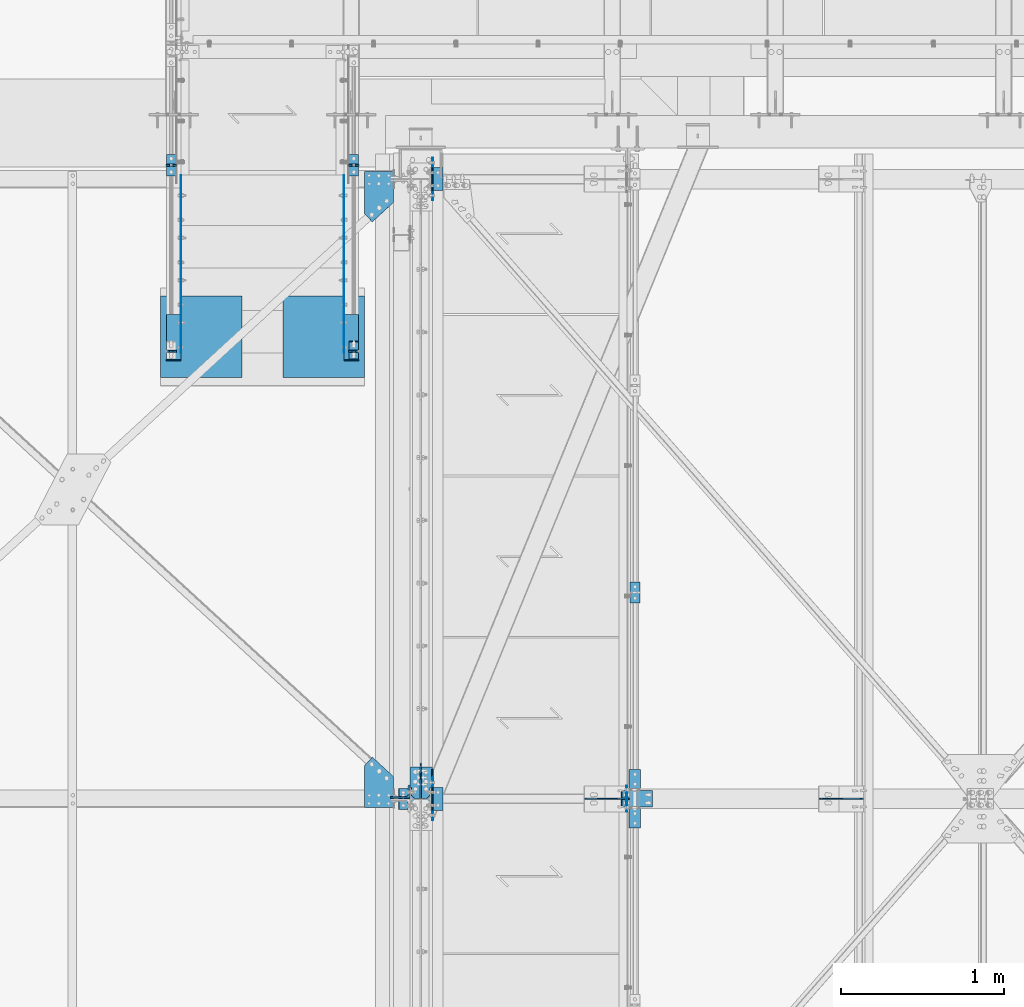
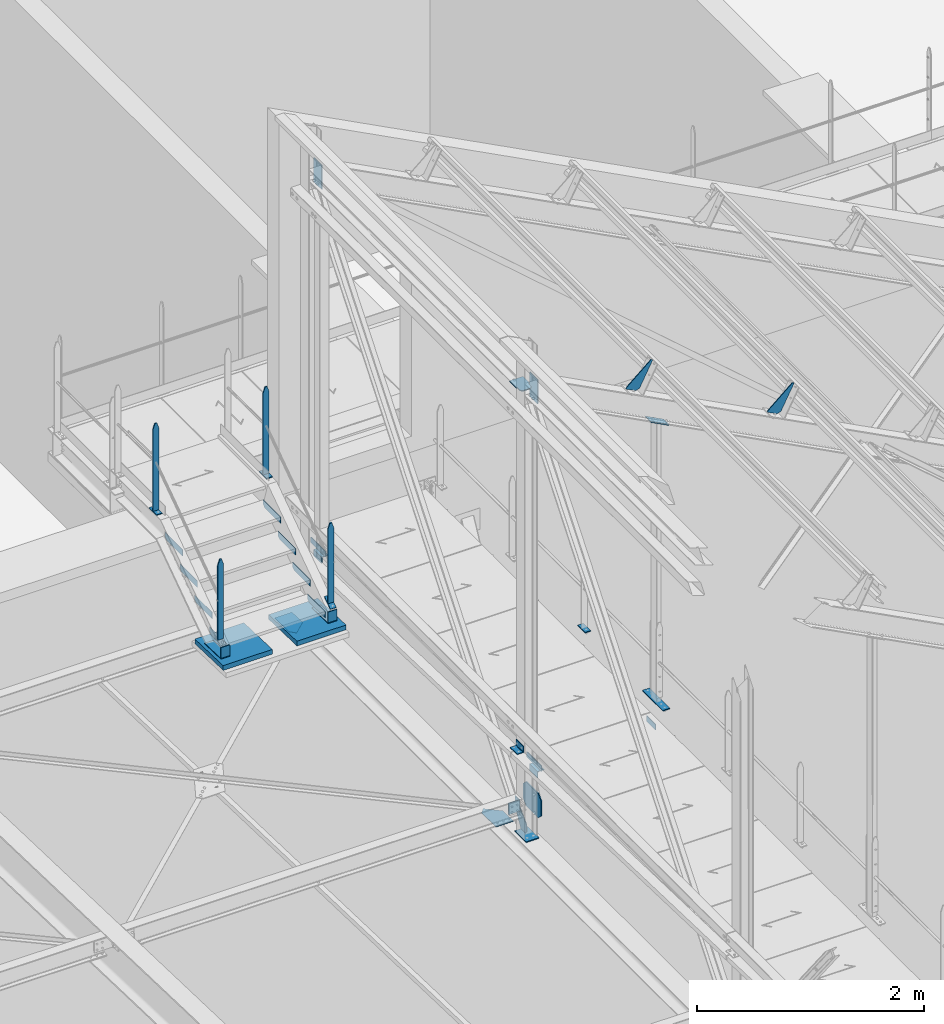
# One storey, part 82 of 362: 38 beams, 3 members, 26 elements without a shape of their own.
"""IFC2X3 building model written with IfcOpenShell, lengths in millimetres."""

from ifc_helpers import new_model, si_unit, frame, frame_2d, origin_with_axes, origin_2d_with_axis, place, context, subcontext, project, spatial, polyline, circle_curve, parameter, trimmed, segment, composite_curve, rectangle, l_section, outline, extrude, clip, halfspace, material, type_object, element, aggregate, save


model = new_model("IFC2X3")

# Units and contexts
model_context = context("Model", 3, precision=1e-05, world=origin_with_axes())
body_context = subcontext(model_context, "Body", "Model", "MODEL_VIEW")
ifc_project = project(units=[si_unit("LENGTHUNIT", "METRE", prefix="MILLI"), si_unit("AREAUNIT", "SQUARE_METRE"), si_unit("VOLUMEUNIT", "CUBIC_METRE"), si_unit("MASSUNIT", "GRAM", prefix="KILO"), si_unit("TIMEUNIT", "SECOND"), si_unit("PLANEANGLEUNIT", "RADIAN"), si_unit("SOLIDANGLEUNIT", "STERADIAN"), si_unit("THERMODYNAMICTEMPERATUREUNIT", "DEGREE_CELSIUS"), si_unit("LUMINOUSINTENSITYUNIT", "LUMEN")], contexts=[model_context])

# Site, building, storey
site_placement = place(None, origin_with_axes())
site = spatial("IfcSite", under=ifc_project, at=site_placement, Name="Undefined", CompositionType="ELEMENT")
building_placement = place(site_placement, origin_with_axes())
building = spatial("IfcBuilding", under=site, at=building_placement, Name="Undefined", CompositionType="ELEMENT")
storey_placement = place(building_placement, origin_with_axes())
storey = spatial("IfcBuildingStorey", under=building, at=storey_placement, Name="Undefined", CompositionType="ELEMENT", Elevation=0.0)

# Assembly, beams
assembly_1_placement = place(storey_placement, origin_with_axes())
assembly_1 = element("IfcElementAssembly", 1, at=assembly_1_placement, inside=storey, Name="MAIN COURANTE", AssemblyPlace="NOTDEFINED", PredefinedType="NOTDEFINED")
ifc_material_1 = material(Name="Undefined/S235-E24")
beam_type_1 = type_object("IfcBeamType", Name="PL10*60", PredefinedType="NOTDEFINED")
beam_1_placement = place(assembly_1_placement, frame((12269.9936634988, 15350.0038033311, 8915.0), z_axis=(1.0, 0.0, 0.0), x_axis=(0.0, -1.0, 0.0)))
beam_1 = element("IfcBeam", 2, at=beam_1_placement, type_object=beam_type_1, material=ifc_material_1, Name="PLATINE", ObjectType="PL10*60", context=body_context, shape_type="SweptSolid", body=[
    extrude(rectangle(XDim=10.0, YDim=60.0, at=origin_2d_with_axis()), frame((130.0, 0.0, 0.0), z_axis=(-1.0, 0.0, 0.0), x_axis=(0.0, -1.0, 0.0)), (0.0, 0.0, 1.0), 130.0),
])
beam_2_placement = place(assembly_1_placement, frame((12269.9937887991, 15285.0038033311, 9857.59999847), z_axis=(0.999999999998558, -1.69800000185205e-06, 0.0), x_axis=(0.0, 0.0, -1.0)))
beam_2 = element("IfcBeam", 3, at=beam_2_placement, type_object=beam_type_1, material=ifc_material_1, Name="MONTANT", ObjectType="PL10*60", context=body_context, shape_type="Clipping", body=[
    clip(clip(extrude(rectangle(XDim=10.0, YDim=60.0, at=origin_2d_with_axis()), frame((937.599998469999, 0.0, 0.0), z_axis=(-1.0, 0.0, 0.0), x_axis=(0.0, -1.0, 0.0)), (0.0, 0.0, 1.0), 937.6), halfspace(frame((-119.999937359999, 4.99999999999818, -30.0), z_axis=(-0.316227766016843, 1.98085072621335e-06, 0.948683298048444), x_axis=(0.948683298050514, 0.0, 0.316227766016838)), False)), halfspace(frame((60.0, 5.0, -30.0), z_axis=(-0.316227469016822, -1.98084886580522e-06, -0.948683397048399), x_axis=(-0.948683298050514, 0.0, 0.316227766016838)), False)),
])

assembly_2_placement = place(storey_placement, origin_with_axes())
assembly_2 = element("IfcElementAssembly", 4, at=assembly_2_placement, inside=storey, Name="MAIN COURANTE", AssemblyPlace="NOTDEFINED", PredefinedType="NOTDEFINED")
beam_3_placement = place(assembly_2_placement, frame((11149.9863365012, 15350.0038033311, 8915.0), z_axis=(-1.0, 0.0, 0.0), x_axis=(0.0, -1.0, 0.0)))
beam_3 = element("IfcBeam", 5, at=beam_3_placement, type_object=beam_type_1, material=ifc_material_1, Name="PLATINE", ObjectType="PL10*60", context=body_context, shape_type="SweptSolid", body=[
    extrude(rectangle(XDim=10.0, YDim=60.0, at=origin_2d_with_axis()), frame((130.0, 0.0, 0.0), z_axis=(-1.0, 0.0, 0.0), x_axis=(0.0, -1.0, 0.0)), (0.0, 0.0, 1.0), 130.0),
])
beam_4_placement = place(assembly_2_placement, frame((11149.9862112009, 15285.0038033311, 9857.59999847), z_axis=(-0.99999999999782, -2.08799999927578e-06, 0.0), x_axis=(0.0, 0.0, -1.0)))
beam_4 = element("IfcBeam", 6, at=beam_4_placement, type_object=beam_type_1, material=ifc_material_1, Name="MONTANT", ObjectType="PL10*60", context=body_context, shape_type="Clipping", body=[
    clip(clip(extrude(rectangle(XDim=10.0, YDim=60.0, at=origin_2d_with_axis()), frame((937.599998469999, 0.0, 0.0), z_axis=(-1.0, 0.0, 0.0), x_axis=(0.0, -1.0, 0.0)), (0.0, 0.0, 1.0), 937.6), halfspace(frame((-119.999937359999, -4.99999999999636, -30.0), z_axis=(-0.316227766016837, -1.98085072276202e-06, 0.948683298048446), x_axis=(-6.26399999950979e-06, 0.999999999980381, -3.63797880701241e-15)), False)), halfspace(frame((60.0, -5.0, -30.0), z_axis=(-0.316227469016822, 1.98084886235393e-06, -0.948683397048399), x_axis=(6.26399999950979e-06, 0.999999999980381, -3.63797880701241e-15)), False)),
])
beam_5_placement = place(assembly_2_placement, frame((11149.9862112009, 14144.9998536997, 9085.35366746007), z_axis=(-0.99999999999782, -2.08799999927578e-06, 0.0), x_axis=(0.0, 0.0, -1.0)))
beam_5 = element("IfcBeam", 7, at=beam_5_placement, type_object=beam_type_1, material=ifc_material_1, Name="MONTANT", ObjectType="PL10*60", context=body_context, shape_type="Clipping", body=[
    clip(clip(clip(clip(extrude(rectangle(XDim=10.0, YDim=60.0, at=origin_2d_with_axis()), frame((863.260305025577, 0.0, 0.0), z_axis=(-1.0, 0.0, 0.0), x_axis=(0.0, -1.0, 0.0)), (0.0, 0.0, 1.0), 870.25), halfspace(frame((-119.999937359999, -4.99999999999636, -30.0), z_axis=(-0.316227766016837, -1.98085072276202e-06, 0.948683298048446), x_axis=(-6.26399999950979e-06, 0.999999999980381, -3.63797880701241e-15)), False)), halfspace(frame((60.0, -5.0, -30.0), z_axis=(-0.316227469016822, 1.98084886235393e-06, -0.948683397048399), x_axis=(6.26399999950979e-06, 0.999999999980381, -3.63797880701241e-15)), False)), halfspace(frame((851.815615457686, -6.43113634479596, -0.000138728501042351), z_axis=(0.822192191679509, -0.569209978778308, -6.66011673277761e-07), x_axis=(0.569209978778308, 0.822192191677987, 1.71673729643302e-06)), False)), halfspace(frame((-7.87605918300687, -11.3765299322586, -0.000149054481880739), z_axis=(0.822192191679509, -0.569209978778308, -6.66011673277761e-07), x_axis=(0.569209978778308, 0.822192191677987, 1.71673729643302e-06)), True)),
])
aggregate(assembly_2, [beam_3, beam_4, beam_5])

# Beam
beam_6_placement = place(assembly_1_placement, frame((12269.9937887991, 14144.9998536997, 9085.35366746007), z_axis=(0.999999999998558, -1.69800000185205e-06, 0.0), x_axis=(0.0, 0.0, -1.0)))
beam_6 = element("IfcBeam", 8, at=beam_6_placement, type_object=beam_type_1, material=ifc_material_1, Name="MONTANT", ObjectType="PL10*60", context=body_context, shape_type="Clipping", body=[
    clip(clip(clip(clip(extrude(rectangle(XDim=10.0, YDim=60.0, at=origin_2d_with_axis()), frame((863.260305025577, 0.0, 0.0), z_axis=(-1.0, 0.0, 0.0), x_axis=(0.0, -1.0, 0.0)), (0.0, 0.0, 1.0), 870.25), halfspace(frame((-119.999937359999, 4.99999999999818, -30.0), z_axis=(-0.316227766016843, 1.98085072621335e-06, 0.948683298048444), x_axis=(0.948683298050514, 0.0, 0.316227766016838)), False)), halfspace(frame((60.0, 5.0, -30.0), z_axis=(-0.316227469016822, -1.98084886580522e-06, -0.948683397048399), x_axis=(-0.948683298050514, 0.0, 0.316227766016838)), False)), halfspace(frame((851.815615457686, 6.43113634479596, -0.000138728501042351), z_axis=(0.822192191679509, 0.569209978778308, -6.6601167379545e-07), x_axis=(0.0, -2.08799999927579e-06, -0.99999999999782)), False)), halfspace(frame((-7.87605918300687, 11.3765299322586, -0.000149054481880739), z_axis=(0.822192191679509, 0.569209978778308, -6.6601167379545e-07), x_axis=(0.0, -2.08799999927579e-06, -0.99999999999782)), True)),
])

# Assembly, beam
assembly_3_placement = place(storey_placement, origin_with_axes())
assembly_3 = element("IfcElementAssembly", 9, at=assembly_3_placement, inside=storey, Name="MAIN COURANTE", AssemblyPlace="NOTDEFINED", PredefinedType="NOTDEFINED")
beam_7_placement = place(assembly_3_placement, frame((13993.9998916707, 12730.0034471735, 8245.00000008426), z_axis=(-1.0, 0.0, 0.0), x_axis=(0.0, -1.0, 0.0)))
beam_7 = element("IfcBeam", 10, at=beam_7_placement, type_object=beam_type_1, material=ifc_material_1, Name="PLATINE", ObjectType="PL10*60", context=body_context, shape_type="SweptSolid", body=[
    extrude(rectangle(XDim=10.0, YDim=60.0, at=origin_2d_with_axis()), frame((130.0, 0.0, 0.0), z_axis=(-1.0, 0.0, 0.0), x_axis=(0.0, -1.0, 0.0)), (0.0, 0.0, 1.0), 130.0),
])
aggregate(assembly_3, [beam_7])

# Member
member_type_1 = type_object("IfcMemberType", Name="PL10*60", PredefinedType="NOTDEFINED")
member_1_placement = place(assembly_1_placement, frame((12269.9936634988, 14205.3993570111, 8264.81946439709), z_axis=(1.0, 0.0, 0.0), x_axis=(0.0, -0.822192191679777, -0.569209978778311)))
member_1 = element("IfcMember", 11, at=member_1_placement, type_object=member_type_1, material=ifc_material_1, Name="PLATINE", ObjectType="PL10*60", context=body_context, shape_type="SweptSolid", body=[
    extrude(rectangle(XDim=10.0, YDim=60.0, at=origin_2d_with_axis()), frame((130.0, 0.0, 0.0), z_axis=(-1.0, 0.0, 0.0), x_axis=(0.0, -1.0, 0.0)), (0.0, 0.0, 1.0), 130.0),
])

aggregate(assembly_1, [beam_1, beam_2, member_1, beam_6])

# Assembly, beams
assembly_4_placement = place(storey_placement, origin_with_axes())
assembly_4 = element("IfcElementAssembly", 12, at=assembly_4_placement, inside=storey, Name="MARCHE", AssemblyPlace="NOTDEFINED", PredefinedType="NOTDEFINED")
beam_type_2 = type_object("IfcBeamType", Name="PL3*70", PredefinedType="NOTDEFINED")
beam_8_placement = place(assembly_4_placement, frame((11211.4947340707, 15224.9997910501, 8700.0), z_axis=(-1.0, 0.0, 0.0), x_axis=(0.0, 0.0, -1.0)))
beam_8 = element("IfcBeam", 13, at=beam_8_placement, type_object=beam_type_2, material=ifc_material_1, Name="PLAT MARCHE", ObjectType="PL3*70", context=body_context, shape_type="SweptSolid", body=[
    extrude(outline(polyline([(0.0, 0.0), (50.0, 0.0), (70.0, 30.0), (70.0, 310.0), (0.0, 310.0), (0.0, 0.0)])), frame((0.0, 0.0, -1.5), z_axis=(0.0, 0.0, 1.0), x_axis=(1.0, 0.0, 0.0)), (0.0, 0.0, 1.0), 3.0),
])
beam_9_placement = place(assembly_4_placement, frame((12208.4947340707, 15224.9997910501, 8700.0), z_axis=(-1.0, 0.0, 0.0), x_axis=(0.0, 0.0, -1.0)))
beam_9 = element("IfcBeam", 14, at=beam_9_placement, type_object=beam_type_2, material=ifc_material_1, Name="PLAT MARCHE", ObjectType="PL3*70", context=body_context, shape_type="SweptSolid", body=[
    extrude(outline(polyline([(0.0, 0.0), (50.0, 0.0), (70.0, 30.0), (70.0, 310.0), (0.0, 310.0), (0.0, 0.0)])), frame((0.0, 0.0, -1.5), z_axis=(0.0, 0.0, 1.0), x_axis=(1.0, 0.0, 0.0)), (0.0, 0.0, 1.0), 3.0),
])
aggregate(assembly_4, [beam_8, beam_9])

assembly_5_placement = place(storey_placement, origin_with_axes())
assembly_5 = element("IfcElementAssembly", 15, at=assembly_5_placement, inside=storey, Name="MARCHE", AssemblyPlace="NOTDEFINED", PredefinedType="NOTDEFINED")
beam_10_placement = place(assembly_5_placement, frame((11211.4947340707, 14964.9997910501, 8520.00000004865), z_axis=(-1.0, 0.0, 0.0), x_axis=(0.0, 0.0, -1.0)))
beam_10 = element("IfcBeam", 16, at=beam_10_placement, type_object=beam_type_2, material=ifc_material_1, Name="PLAT MARCHE", ObjectType="PL3*70", context=body_context, shape_type="SweptSolid", body=[
    extrude(outline(polyline([(0.0, 0.0), (50.0, 0.0), (70.0, 30.0), (70.0, 310.0), (0.0, 310.0), (0.0, 0.0)])), frame((0.0, 0.0, -1.5), z_axis=(0.0, 0.0, 1.0), x_axis=(1.0, 0.0, 0.0)), (0.0, 0.0, 1.0), 3.0),
])
beam_11_placement = place(assembly_5_placement, frame((12208.4947340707, 14964.9997910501, 8520.00000004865), z_axis=(-1.0, 0.0, 0.0), x_axis=(0.0, 0.0, -1.0)))
beam_11 = element("IfcBeam", 17, at=beam_11_placement, type_object=beam_type_2, material=ifc_material_1, Name="PLAT MARCHE", ObjectType="PL3*70", context=body_context, shape_type="SweptSolid", body=[
    extrude(outline(polyline([(0.0, 0.0), (50.0, 0.0), (70.0, 30.0), (70.0, 310.0), (0.0, 310.0), (0.0, 0.0)])), frame((0.0, 0.0, -1.5), z_axis=(0.0, 0.0, 1.0), x_axis=(1.0, 0.0, 0.0)), (0.0, 0.0, 1.0), 3.0),
])
aggregate(assembly_5, [beam_10, beam_11])

assembly_6_placement = place(storey_placement, origin_with_axes())
assembly_6 = element("IfcElementAssembly", 18, at=assembly_6_placement, inside=storey, Name="MARCHE", AssemblyPlace="NOTDEFINED", PredefinedType="NOTDEFINED")
beam_12_placement = place(assembly_6_placement, frame((11211.4947340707, 14704.9997910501, 8340.00000007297), z_axis=(-1.0, 0.0, 0.0), x_axis=(0.0, 0.0, -1.0)))
beam_12 = element("IfcBeam", 19, at=beam_12_placement, type_object=beam_type_2, material=ifc_material_1, Name="PLAT MARCHE", ObjectType="PL3*70", context=body_context, shape_type="SweptSolid", body=[
    extrude(outline(polyline([(0.0, 0.0), (50.0, 0.0), (70.0, 30.0), (70.0, 310.0), (0.0, 310.0), (0.0, 0.0)])), frame((0.0, 0.0, -1.5), z_axis=(0.0, 0.0, 1.0), x_axis=(1.0, 0.0, 0.0)), (0.0, 0.0, 1.0), 3.0),
])
beam_13_placement = place(assembly_6_placement, frame((12208.4947340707, 14704.9997910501, 8340.00000007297), z_axis=(-1.0, 0.0, 0.0), x_axis=(0.0, 0.0, -1.0)))
beam_13 = element("IfcBeam", 20, at=beam_13_placement, type_object=beam_type_2, material=ifc_material_1, Name="PLAT MARCHE", ObjectType="PL3*70", context=body_context, shape_type="SweptSolid", body=[
    extrude(outline(polyline([(0.0, 0.0), (50.0, 0.0), (70.0, 30.0), (70.0, 310.0), (0.0, 310.0), (0.0, 0.0)])), frame((0.0, 0.0, -1.5), z_axis=(0.0, 0.0, 1.0), x_axis=(1.0, 0.0, 0.0)), (0.0, 0.0, 1.0), 3.0),
])
aggregate(assembly_6, [beam_12, beam_13])

assembly_7_placement = place(storey_placement, origin_with_axes())
assembly_7 = element("IfcElementAssembly", 21, at=assembly_7_placement, inside=storey, Name="MARCHE", AssemblyPlace="NOTDEFINED", PredefinedType="NOTDEFINED")
beam_14_placement = place(assembly_7_placement, frame((11211.4947340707, 14444.9997910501, 8160.0000000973), z_axis=(-1.0, 0.0, 0.0), x_axis=(0.0, 0.0, -1.0)))
beam_14 = element("IfcBeam", 22, at=beam_14_placement, type_object=beam_type_2, material=ifc_material_1, Name="PLAT MARCHE", ObjectType="PL3*70", context=body_context, shape_type="SweptSolid", body=[
    extrude(outline(polyline([(0.0, 0.0), (50.0, 0.0), (70.0, 30.0), (70.0, 310.0), (0.0, 310.0), (0.0, 0.0)])), frame((0.0, 0.0, -1.5), z_axis=(0.0, 0.0, 1.0), x_axis=(1.0, 0.0, 0.0)), (0.0, 0.0, 1.0), 3.0),
])
beam_15_placement = place(assembly_7_placement, frame((12208.4947340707, 14444.9997910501, 8160.0000000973), z_axis=(-1.0, 0.0, 0.0), x_axis=(0.0, 0.0, -1.0)))
beam_15 = element("IfcBeam", 23, at=beam_15_placement, type_object=beam_type_2, material=ifc_material_1, Name="PLAT MARCHE", ObjectType="PL3*70", context=body_context, shape_type="SweptSolid", body=[
    extrude(outline(polyline([(0.0, 0.0), (50.0, 0.0), (70.0, 30.0), (70.0, 310.0), (0.0, 310.0), (0.0, 0.0)])), frame((0.0, 0.0, -1.5), z_axis=(0.0, 0.0, 1.0), x_axis=(1.0, 0.0, 0.0)), (0.0, 0.0, 1.0), 3.0),
])
aggregate(assembly_7, [beam_14, beam_15])

assembly_8_placement = place(storey_placement, origin_with_axes())
assembly_8 = element("IfcElementAssembly", 24, at=assembly_8_placement, inside=storey, AssemblyPlace="NOTDEFINED", PredefinedType="NOTDEFINED")
beam_type_3 = type_object("IfcBeamType", Name="PL8*90", PredefinedType="NOTDEFINED")
beam_16_placement = place(assembly_8_placement, frame((12254.9938754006, 14370.1040990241, 8052.62545207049), z_axis=(1.0, 0.0, 0.0), x_axis=(0.0, -0.999506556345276, 0.031410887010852)))
beam_16 = element("IfcBeam", 25, at=beam_16_placement, type_object=beam_type_3, material=ifc_material_1, Name="PLAT LIMON", ObjectType="PL8*90", context=body_context, shape_type="SweptSolid", body=[
    extrude(rectangle(XDim=8.0, YDim=90.0, at=origin_2d_with_axis()), frame((285.370765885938, 0.0, 0.0), z_axis=(-1.0, 0.0, 0.0), x_axis=(0.0, -1.0, 0.0)), (0.0, 0.0, 1.0), 285.37),
])
beam_17_placement = place(assembly_8_placement, frame((12254.9938754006, 14088.9997910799, 8180.92307703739), z_axis=(1.0, 0.0, 0.0), x_axis=(0.0, 0.0, -1.0)))
beam_17 = element("IfcBeam", 26, at=beam_17_placement, type_object=beam_type_3, material=ifc_material_1, Name="PLAT LIMON", ObjectType="PL8*90", context=body_context, shape_type="SweptSolid", body=[
    extrude(rectangle(XDim=8.0, YDim=90.0, at=origin_2d_with_axis()), frame((114.997260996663, 0.0, 0.0), z_axis=(-1.0, 0.0, 0.0), x_axis=(0.0, -1.0, 0.0)), (0.0, 0.0, 1.0), 115.0),
])
aggregate(assembly_8, [beam_16, beam_17])

assembly_9_placement = place(storey_placement, origin_with_axes())
assembly_9 = element("IfcElementAssembly", 27, at=assembly_9_placement, inside=storey, AssemblyPlace="NOTDEFINED", PredefinedType="NOTDEFINED")
beam_18_placement = place(assembly_9_placement, frame((11165.0061245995, 14370.1040990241, 8052.62545207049), z_axis=(-1.0, 0.0, 0.0), x_axis=(0.0, -0.999506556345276, 0.031410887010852)))
beam_18 = element("IfcBeam", 28, at=beam_18_placement, type_object=beam_type_3, material=ifc_material_1, Name="PLAT LIMON", ObjectType="PL8*90", context=body_context, shape_type="SweptSolid", body=[
    extrude(rectangle(XDim=8.0, YDim=90.0, at=origin_2d_with_axis()), frame((285.370765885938, 0.0, 0.0), z_axis=(-1.0, 0.0, 0.0), x_axis=(0.0, -1.0, 0.0)), (0.0, 0.0, 1.0), 285.37),
])
beam_19_placement = place(assembly_9_placement, frame((11165.0061245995, 14088.9997910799, 8180.92307703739), z_axis=(-1.0, 0.0, 0.0), x_axis=(0.0, 0.0, -1.0)))
beam_19 = element("IfcBeam", 29, at=beam_19_placement, type_object=beam_type_3, material=ifc_material_1, Name="PLAT LIMON", ObjectType="PL8*90", context=body_context, shape_type="SweptSolid", body=[
    extrude(rectangle(XDim=8.0, YDim=90.0, at=origin_2d_with_axis()), frame((114.997260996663, 0.0, 0.0), z_axis=(-1.0, 0.0, 0.0), x_axis=(0.0, -1.0, 0.0)), (0.0, 0.0, 1.0), 115.0),
])
aggregate(assembly_9, [beam_18, beam_19])

# Assembly, beam
assembly_10_placement = place(storey_placement, origin_with_axes())
assembly_10 = element("IfcElementAssembly", 30, at=assembly_10_placement, inside=storey, Name="DALLE SUR PLOT", AssemblyPlace="NOTDEFINED", PredefinedType="REINFORCEMENT_UNIT")
ifc_material_2 = material(Name="CONCRETE/BETON")
beam_type_4 = type_object("IfcBeamType", Name="PL50*500", PredefinedType="NOTDEFINED")
beam_20_placement = place(assembly_10_placement, frame((11334.9947340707, 14483.7658543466, 8020.03915601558), z_axis=(-1.0, 0.0, 0.0), x_axis=(0.0, -0.999506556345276, 0.031410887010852)))
beam_20 = element("IfcBeam", 31, at=beam_20_placement, type_object=beam_type_4, material=ifc_material_2, Name="DALLE SUR PLOT", ObjectType="PL50*500", context=body_context, shape_type="SweptSolid", body=[
    extrude(rectangle(XDim=50.0, YDim=500.0, at=origin_2d_with_axis()), frame((500.000000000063, 0.0, 0.0), z_axis=(-1.0, 0.0, 0.0), x_axis=(0.0, -1.0, 0.0)), (0.0, 0.0, 1.0), 500.0),
])
aggregate(assembly_10, [beam_20])

assembly_11_placement = place(storey_placement, origin_with_axes())
assembly_11 = element("IfcElementAssembly", 32, at=assembly_11_placement, inside=storey, Name="DALLE SUR PLOT", AssemblyPlace="NOTDEFINED", PredefinedType="REINFORCEMENT_UNIT")
beam_21_placement = place(assembly_11_placement, frame((12084.9947340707, 14483.7658543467, 8020.03915601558), z_axis=(-1.0, 0.0, 0.0), x_axis=(0.0, -0.999506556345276, 0.031410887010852)))
beam_21 = element("IfcBeam", 33, at=beam_21_placement, type_object=beam_type_4, material=ifc_material_2, Name="DALLE SUR PLOT", ObjectType="PL50*500", context=body_context, shape_type="SweptSolid", body=[
    extrude(rectangle(XDim=50.0, YDim=500.0, at=origin_2d_with_axis()), frame((500.000000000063, 0.0, 0.0), z_axis=(-1.0, 0.0, 0.0), x_axis=(0.0, -1.0, 0.0)), (0.0, 0.0, 1.0), 500.0),
])
aggregate(assembly_11, [beam_21])

assembly_12_placement = place(storey_placement, origin_with_axes())
assembly_12 = element("IfcElementAssembly", 34, at=assembly_12_placement, inside=storey, AssemblyPlace="NOTDEFINED", PredefinedType="NOTDEFINED")
beam_type_5 = type_object("IfcBeamType", Name="L70*7", PredefinedType="NOTDEFINED")
beam_22_placement = place(assembly_12_placement, frame((12781.5082291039, 15130.0, 7915.0), z_axis=(1.0, 0.0, 0.0), x_axis=(0.0, 1.0, 0.0)))
beam_22 = element("IfcBeam", 35, at=beam_22_placement, type_object=beam_type_5, material=ifc_material_1, Name="ATTACHE", ObjectType="L70*7", context=body_context, shape_type="SweptSolid", body=[
    extrude(l_section(Depth=70.0, Width=70.0, Thickness=7.0, FilletRadius=9.0, EdgeRadius=4.5, at=origin_2d_with_axis()), frame((140.0, 0.0, 0.0), z_axis=(-1.0, 0.0, 0.0), x_axis=(0.0, -1.0, 0.0)), (0.0, 0.0, 1.0), 140.0),
])
aggregate(assembly_12, [beam_22])

assembly_13_placement = place(storey_placement, origin_with_axes())
assembly_13 = element("IfcElementAssembly", 36, at=assembly_13_placement, inside=storey, AssemblyPlace="NOTDEFINED", PredefinedType="NOTDEFINED")
beam_23_placement = place(assembly_13_placement, frame((12781.5082291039, 11330.0, 7915.0), z_axis=(1.0, 0.0, 0.0), x_axis=(0.0, 1.0, 0.0)))
beam_23 = element("IfcBeam", 37, at=beam_23_placement, type_object=beam_type_5, material=ifc_material_1, Name="ATTACHE", ObjectType="L70*7", context=body_context, shape_type="SweptSolid", body=[
    extrude(l_section(Depth=70.0, Width=70.0, Thickness=7.0, FilletRadius=9.0, EdgeRadius=4.5, at=origin_2d_with_axis()), frame((140.0, 0.0, 0.0), z_axis=(-1.0, 0.0, 0.0), x_axis=(0.0, -1.0, 0.0)), (0.0, 0.0, 1.0), 140.0),
])
aggregate(assembly_13, [beam_23])

assembly_14_placement = place(storey_placement, origin_with_axes())
assembly_14 = element("IfcElementAssembly", 38, at=assembly_14_placement, inside=storey, AssemblyPlace="NOTDEFINED", PredefinedType="NOTDEFINED")
beam_24_placement = place(assembly_14_placement, frame((12578.5000000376, 11464.8129140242, 8229.98135168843), z_axis=(0.0, 0.0314135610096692, 0.999506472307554), x_axis=(0.0, -0.999506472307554, 0.031413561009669)))
beam_24 = element("IfcBeam", 39, at=beam_24_placement, type_object=beam_type_5, material=ifc_material_1, Name="ATTACHE", ObjectType="L70*7", context=body_context, shape_type="SweptSolid", body=[
    extrude(l_section(Depth=70.0, Width=70.0, Thickness=7.0, FilletRadius=9.0, EdgeRadius=4.5, at=origin_2d_with_axis()), frame((130.004127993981, 0.0, 9.02084851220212e-16), z_axis=(-1.0, 0.0, 0.0), x_axis=(0.0, -1.0, 0.0)), (0.0, 0.0, 1.0), 130.0),
])
aggregate(assembly_14, [beam_24])

assembly_15_placement = place(storey_placement, origin_with_axes())
assembly_15 = element("IfcElementAssembly", 40, at=assembly_15_placement, inside=storey, Name="PANNE SHED", AssemblyPlace="NOTDEFINED", PredefinedType="NOTDEFINED")
beam_type_6 = type_object("IfcBeamType", Name="TOLE8*140", PredefinedType="NOTDEFINED")
beam_25_placement = place(assembly_15_placement, frame((15395.0613651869, 11400.0, 11158.7378432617), z_axis=(0.0, -1.0, 0.0), x_axis=(-0.886081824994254, 0.0, 0.463528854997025)))
beam_25 = element("IfcBeam", 41, at=beam_25_placement, type_object=beam_type_6, material=ifc_material_1, Name="RAIDISSEUR", ObjectType="TOLE8*140", context=body_context, shape_type="SweptSolid", body=[
    extrude(outline(polyline([(0.0, 0.0), (19.9999999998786, -3.63797880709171e-12), (140.000030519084, 299.999999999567), (140.000030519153, 319.999999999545), (30.0000147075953, 319.999999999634), (0.0, 290.0), (0.0, 0.0)])), frame((0.0, 0.0, -4.0), z_axis=(0.0, 0.0, 1.0), x_axis=(1.0, 0.0, 0.0)), (0.0, 0.0, 1.0), 8.0),
])
aggregate(assembly_15, [beam_25])

assembly_16_placement = place(storey_placement, origin_with_axes())
assembly_16 = element("IfcElementAssembly", 42, at=assembly_16_placement, inside=storey, Name="PANNE SHED", AssemblyPlace="NOTDEFINED", PredefinedType="NOTDEFINED")
beam_26_placement = place(assembly_16_placement, frame((13957.7613225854, 11400.0, 11910.6201334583), z_axis=(0.0, -1.0, 0.0), x_axis=(-0.886081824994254, 0.0, 0.463528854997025)))
beam_26 = element("IfcBeam", 43, at=beam_26_placement, type_object=beam_type_6, material=ifc_material_1, Name="RAIDISSEUR", ObjectType="TOLE8*140", context=body_context, shape_type="SweptSolid", body=[
    extrude(outline(polyline([(0.0, 0.0), (19.9999999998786, -3.63797880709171e-12), (140.000030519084, 299.999999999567), (140.000030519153, 319.999999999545), (30.0000147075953, 319.999999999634), (0.0, 290.0), (0.0, 0.0)])), frame((0.0, 0.0, -4.0), z_axis=(0.0, 0.0, 1.0), x_axis=(1.0, 0.0, 0.0)), (0.0, 0.0, 1.0), 8.0),
])
aggregate(assembly_16, [beam_26])

assembly_17_placement = place(storey_placement, origin_with_axes())
assembly_17 = element("IfcElementAssembly", 44, at=assembly_17_placement, inside=storey, AssemblyPlace="NOTDEFINED", PredefinedType="NOTDEFINED")
beam_type_7 = type_object("IfcBeamType", Name="TOLE10*260", PredefinedType="NOTDEFINED")
beam_27_placement = place(assembly_17_placement, frame((12751.5082288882, 11266.0627902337, 7721.69334954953), z_axis=(1.0, 0.0, 0.0), x_axis=(0.0, 0.0, -1.0)))
beam_27 = element("IfcBeam", 45, at=beam_27_placement, type_object=beam_type_7, material=ifc_material_1, Name="PLATINE", ObjectType="TOLE10*260", context=body_context, shape_type="Clipping", body=[
    clip(clip(clip(clip(extrude(outline(polyline([(0.0, 0.0), (260.0, -1.72803993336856e-10), (260.0, 316.727111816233), (-1.43547367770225e-07, 316.727111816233), (0.0, 0.0)])), frame((0.0, 0.0, -5.0), z_axis=(0.0, 0.0, 1.0), x_axis=(1.0, 0.0, 0.0)), (0.0, 0.0, 1.0), 10.0), halfspace(frame((550.000000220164, -499.999999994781, -5.0), z_axis=(-0.707106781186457, -0.707106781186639, 0.0), x_axis=(-0.707106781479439, 0.707106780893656, 2.92893673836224e-10)), False)), halfspace(frame((-766.727111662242, -499.999999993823, -5.0), z_axis=(-0.707106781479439, 0.707106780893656, 2.92893673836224e-10), x_axis=(0.707106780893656, 0.707106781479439, 2.92893673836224e-10)), False)), halfspace(frame((1026.72711213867, -499.999999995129, 5.0), z_axis=(0.707106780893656, 0.707106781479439, 2.92893673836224e-10), x_axis=(-0.707106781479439, 0.707106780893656, 2.92893673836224e-10)), False)), halfspace(frame((-289.999999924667, -499.99999999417, 5.0), z_axis=(0.707106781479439, -0.707106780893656, 0.0), x_axis=(0.707106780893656, 0.707106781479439, 2.92893673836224e-10)), False)),
])
aggregate(assembly_17, [beam_27])

assembly_18_placement = place(storey_placement, origin_with_axes())
assembly_18 = element("IfcElementAssembly", 46, at=assembly_18_placement, inside=storey, AssemblyPlace="NOTDEFINED", PredefinedType="NOTDEFINED")
beam_type_8 = type_object("IfcBeamType", Name="TOLE6*178", PredefinedType="NOTDEFINED")
beam_28_placement = place(assembly_18_placement, frame((12383.2639945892, 11655.9483940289, 7480.59839222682), z_axis=(-1.05403257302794e-09, -0.0314112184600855, -0.999506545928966), x_axis=(0.736014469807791, -0.6766317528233, 0.021264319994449)))
beam_28 = element("IfcBeam", 47, at=beam_28_placement, type_object=beam_type_8, material=ifc_material_1, Name="GOUSSET", ObjectType="TOLE6*178", context=body_context, shape_type="SweptSolid", body=[
    extrude(outline(polyline([(0.0, 0.0), (176.947631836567, 5.82076609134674e-10), (305.251708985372, 139.495483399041), (174.518157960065, 259.740600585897), (-7.90371359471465e-08, 70.000007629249), (0.0, 0.0)])), frame((0.0, 0.0, -3.0), z_axis=(0.0, 0.0, 1.0), x_axis=(1.0, 0.0, 0.0)), (0.0, 0.0, 1.0), 6.0),
])
aggregate(assembly_18, [beam_28])

assembly_19_placement = place(storey_placement, origin_with_axes())
assembly_19 = element("IfcElementAssembly", 48, at=assembly_19_placement, inside=storey, AssemblyPlace="NOTDEFINED", PredefinedType="NOTDEFINED")
beam_29_placement = place(assembly_19_placement, frame((12383.2639945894, 14937.5769481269, 7377.46755199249), z_axis=(7.58071938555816e-11, 0.0314107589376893, 0.999506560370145), x_axis=(0.736014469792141, 0.67663175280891, -0.0212643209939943)))
beam_29 = element("IfcBeam", 49, at=beam_29_placement, type_object=beam_type_8, material=ifc_material_1, Name="GOUSSET", ObjectType="TOLE6*178", context=body_context, shape_type="SweptSolid", body=[
    extrude(outline(polyline([(0.0, 0.0), (176.947631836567, 5.82076609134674e-10), (305.251708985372, 139.495483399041), (174.518157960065, 259.740600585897), (-7.90371359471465e-08, 70.000007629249), (0.0, 0.0)])), frame((0.0, 0.0, -3.0), z_axis=(0.0, 0.0, 1.0), x_axis=(1.0, 0.0, 0.0)), (0.0, 0.0, 1.0), 6.0),
])
aggregate(assembly_19, [beam_29])

assembly_20_placement = place(storey_placement, origin_with_axes())
assembly_20 = element("IfcElementAssembly", 50, at=assembly_20_placement, inside=storey, Name="MONTANT", AssemblyPlace="NOTDEFINED", PredefinedType="NOTDEFINED")
beam_type_9 = type_object("IfcBeamType", Name="PL10*133", PredefinedType="NOTDEFINED")
beam_30_placement = place(assembly_20_placement, frame((12680.0, 11500.0, 7255.0), z_axis=(1.0, 0.0, 0.0), x_axis=(0.0, -1.0, 0.0)))
beam_30 = element("IfcBeam", 51, at=beam_30_placement, type_object=beam_type_9, material=ifc_material_1, Name="PLATINE", ObjectType="PL10*133", context=body_context, shape_type="SweptSolid", body=[
    extrude(rectangle(XDim=10.0, YDim=133.0, at=origin_2d_with_axis()), frame((200.0, 0.0, 0.0), z_axis=(-1.0, 0.0, 0.0), x_axis=(0.0, -1.0, 0.0)), (0.0, 0.0, 1.0), 200.0),
])

# Assembly, member
assembly_21_placement = place(storey_placement, origin_with_axes())
assembly_21 = element("IfcElementAssembly", 52, at=assembly_21_placement, inside=storey, AssemblyPlace="NOTDEFINED", PredefinedType="NOTDEFINED")
member_type_2 = type_object("IfcMemberType", Name="PL10*100", PredefinedType="NOTDEFINED")
member_2_placement = place(assembly_21_placement, frame((13911.9348604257, 11400.0000000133, 11285.668922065), z_axis=(0.0, -1.0, 0.0), x_axis=(0.886081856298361, 3.500000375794e-08, -0.463528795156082)))
member_2 = element("IfcMember", 53, at=member_2_placement, type_object=member_type_2, material=ifc_material_1, Name="PLATINE", ObjectType="PL10*100", context=body_context, shape_type="SweptSolid", body=[
    extrude(rectangle(XDim=10.0, YDim=100.0, at=origin_2d_with_axis()), frame((210.000000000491, 0.0, 1.81898940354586e-12), z_axis=(-1.0, 0.0, 0.0), x_axis=(0.0, -1.0, 0.0)), (0.0, 0.0, 1.0), 210.0),
])

# Assembly, beam
assembly_22_placement = place(storey_placement, origin_with_axes())
assembly_22 = element("IfcElementAssembly", 54, at=assembly_22_placement, inside=storey, AssemblyPlace="NOTDEFINED", PredefinedType="NOTDEFINED")
beam_type_10 = type_object("IfcBeamType", Name="TOLE6*60", PredefinedType="NOTDEFINED")
beam_31_placement = place(assembly_22_placement, frame((13942.9998855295, 11320.0, 7985.0), z_axis=(-1.0, 0.0, 0.0), x_axis=(0.0, 0.0, 1.0)))
beam_31 = element("IfcBeam", 55, at=beam_31_placement, type_object=beam_type_10, material=ifc_material_1, Name="PLATINE", ObjectType="TOLE6*60", context=body_context, shape_type="SweptSolid", body=[
    extrude(outline(polyline([(0.0, 0.0), (60.0, 0.0), (60.0, 159.999984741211), (0.0, 159.999984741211), (0.0, 0.0)])), frame((0.0, 0.0, -3.0), z_axis=(0.0, 0.0, 1.0), x_axis=(1.0, 0.0, 0.0)), (0.0, 0.0, 1.0), 6.0),
])

assembly_23_placement = place(storey_placement, origin_with_axes())
assembly_23 = element("IfcElementAssembly", 56, at=assembly_23_placement, inside=storey, AssemblyPlace="NOTDEFINED", PredefinedType="NOTDEFINED")
beam_32_placement = place(assembly_23_placement, frame((12755.0001144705, 15070.0, 7985.0), z_axis=(-1.0, 0.0, 0.0), x_axis=(0.0, 0.0, 1.0)))
beam_32 = element("IfcBeam", 57, at=beam_32_placement, type_object=beam_type_10, material=ifc_material_1, Name="PLATINE", ObjectType="TOLE6*60", context=body_context, shape_type="SweptSolid", body=[
    extrude(outline(polyline([(0.0, 0.0), (60.0, 0.0), (60.0, 260.0), (0.0, 260.0), (0.0, 0.0)])), frame((0.0, 0.0, -3.0), z_axis=(0.0, 0.0, 1.0), x_axis=(1.0, 0.0, 0.0)), (0.0, 0.0, 1.0), 6.0),
])
aggregate(assembly_23, [beam_32])

# Beam
beam_33_placement = place(assembly_22_placement, frame((12755.0001144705, 11270.0, 7985.0), z_axis=(-1.0, 0.0, 0.0), x_axis=(0.0, 0.0, 1.0)))
beam_33 = element("IfcBeam", 58, at=beam_33_placement, type_object=beam_type_10, material=ifc_material_1, Name="PLATINE", ObjectType="TOLE6*60", context=body_context, shape_type="SweptSolid", body=[
    extrude(outline(polyline([(0.0, 0.0), (60.0, 0.0), (60.0, 260.0), (0.0, 260.0), (0.0, 0.0)])), frame((0.0, 0.0, -3.0), z_axis=(0.0, 0.0, 1.0), x_axis=(1.0, 0.0, 0.0)), (0.0, 0.0, 1.0), 6.0),
])

aggregate(assembly_22, [beam_31, beam_33])

beam_type_11 = type_object("IfcBeamType", Name="PL10*70", PredefinedType="NOTDEFINED")
beam_34_placement = place(assembly_21_placement, frame((13993.9998855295, 11580.0001061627, 8245.00000367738), z_axis=(1.0, 0.0, 0.0), x_axis=(0.0, -1.0, 0.0)))
beam_34 = element("IfcBeam", 59, at=beam_34_placement, type_object=beam_type_11, material=ifc_material_1, Name="PLATINE", ObjectType="PL10*70", context=body_context, shape_type="SweptSolid", body=[
    extrude(rectangle(XDim=10.0, YDim=70.0, at=origin_2d_with_axis()), frame((360.000000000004, 0.0, 0.0), z_axis=(-1.0, 0.0, 0.0), x_axis=(0.0, -1.0, 0.0)), (0.0, 0.0, 1.0), 360.0),
])

aggregate(assembly_21, [member_2, beam_34])

# Assembly, beam
assembly_24_placement = place(storey_placement, origin_with_axes())
assembly_24 = element("IfcElementAssembly", 60, at=assembly_24_placement, inside=storey, Name="TRAVERSE SHED", AssemblyPlace="NOTDEFINED", PredefinedType="NOTDEFINED")
beam_type_12 = type_object("IfcBeamType", Name="PL10*140", PredefinedType="NOTDEFINED")
beam_35_placement = place(assembly_24_placement, frame((12751.5, 15200.0, 12161.0697488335), z_axis=(0.0, -1.0, 0.0), x_axis=(0.0, 0.0, -1.0)))
beam_35 = element("IfcBeam", 61, at=beam_35_placement, type_object=beam_type_12, material=ifc_material_1, Name="PLATINE", ObjectType="PL10*140", context=body_context, shape_type="SweptSolid", body=[
    extrude(rectangle(XDim=10.0, YDim=140.0, at=origin_2d_with_axis()), frame((259.795359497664, 0.0, 0.0), z_axis=(-1.0, 0.0, 0.0), x_axis=(0.0, -1.0, 0.0)), (0.0, 0.0, 1.0), 259.8),
])
aggregate(assembly_24, [beam_35])

assembly_25_placement = place(storey_placement, origin_with_axes())
assembly_25 = element("IfcElementAssembly", 62, at=assembly_25_placement, inside=storey, Name="TRAVERSE SHED", AssemblyPlace="NOTDEFINED", PredefinedType="NOTDEFINED")
beam_36_placement = place(assembly_25_placement, frame((12751.5, 11400.0, 12161.0697488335), z_axis=(0.0, -1.0, 0.0), x_axis=(0.0, 0.0, -1.0)))
beam_36 = element("IfcBeam", 63, at=beam_36_placement, type_object=beam_type_12, material=ifc_material_1, Name="PLATINE", ObjectType="PL10*140", context=body_context, shape_type="SweptSolid", body=[
    extrude(rectangle(XDim=10.0, YDim=140.0, at=origin_2d_with_axis()), frame((259.795359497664, 0.0, 0.0), z_axis=(-1.0, 0.0, 0.0), x_axis=(0.0, -1.0, 0.0)), (0.0, 0.0, 1.0), 259.8),
])
aggregate(assembly_25, [beam_36])

# Assembly, member
assembly_26_placement = place(storey_placement, origin_with_axes())
assembly_26 = element("IfcElementAssembly", 64, at=assembly_26_placement, inside=storey, AssemblyPlace="NOTDEFINED", PredefinedType="NOTDEFINED")
member_type_3 = type_object("IfcMemberType", Name="L120*80*10", PredefinedType="NOTDEFINED")
member_3_placement = place(assembly_26_placement, frame((12553.5000000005, 11444.86430251, 7650.30906880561), z_axis=(-1.0, 0.0, 0.0), x_axis=(-1.05403257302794e-09, -0.0314112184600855, -0.999506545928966)))
member_3 = element("IfcMember", 65, at=member_3_placement, type_object=member_type_3, material=ifc_material_1, Name="ATTACHE", ObjectType="L120*80*10", context=body_context, shape_type="SweptSolid", body=[
    extrude(l_section(Depth=120.0, Width=80.0, Thickness=10.0, FilletRadius=11.0, EdgeRadius=5.5, at=origin_2d_with_axis()), frame((120.0, 0.0, 0.0), z_axis=(-1.0, 0.0, 0.0), x_axis=(0.0, -1.0, 0.0)), (0.0, 0.0, 1.0), 120.0),
])
aggregate(assembly_26, [member_3])

# Beam
beam_type_13 = type_object("IfcBeamType", Name="TOLE8*135", PredefinedType="NOTDEFINED")
beam_37_placement = place(assembly_20_placement, frame((12680.0, 11500.0, 7260.0), z_axis=(-1.0, 0.0, 0.0), x_axis=(0.0, -1.0, 0.0)))
beam_37 = element("IfcBeam", 66, at=beam_37_placement, type_object=beam_type_13, material=ifc_material_1, Name="GOUSSET", ObjectType="TOLE8*135", context=body_context, shape_type="SweptSolid", body=[
    extrude(outline(polyline([(0.0, 0.0), (77.25, 0.0), (97.25, 20.0), (97.25, 100.0), (-55.1922302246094, 249.837203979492), (-117.850288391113, 200.098205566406), (0.0, 0.0)])), frame((0.0, 0.0, -4.0), z_axis=(0.0, 0.0, 1.0), x_axis=(1.0, 0.0, 0.0)), (0.0, 0.0, 1.0), 8.0),
])

beam_type_14 = type_object("IfcBeamType", Name="TOLE10*192", PredefinedType="NOTDEFINED")
beam_38_placement = place(assembly_20_placement, frame((12613.5, 11595.0, 12032.0), z_axis=(0.0, 0.0, 1.0), x_axis=(0.0, -1.0, 0.0)))
beam_38 = element("IfcBeam", 67, at=beam_38_placement, type_object=beam_type_14, material=ifc_material_1, Name="PLAT", ObjectType="TOLE10*192", context=body_context, shape_type="SweptSolid", body=[
    extrude(outline(composite_curve([segment(trimmed(circle_curve(frame_2d((10.0, 10.0), x_axis=(-1.0, 0.0)), 10.0), [parameter(0.0)], [parameter(1.5707963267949)], True, "PARAMETER"), True, "CONTINUOUS"), segment(polyline([(9.99999999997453, 6.91215973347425e-11), (124.5, 0.0), (124.5, 9.0), (172.25, 9.0), (192.25, 29.0), (192.25, 104.0), (172.25, 124.0), (124.0, 124.0), (124.0, 140.0), (10.0, 140.0)]), True, "CONTINUOUS"), segment(trimmed(circle_curve(frame_2d((10.0, 130.0), x_axis=(0.0, 1.0)), 10.0), [parameter(0.0)], [parameter(1.5707963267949)], True, "PARAMETER"), True, "CONTINUOUS"), segment(polyline([(0.0, 130.0), (-1.81898940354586e-10, 10.0000000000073)]), True, "CONTINUOUS")], self_intersect=True)), frame((0.0, 0.0, -5.0), z_axis=(0.0, 0.0, 1.0), x_axis=(1.0, 0.0, 0.0)), (0.0, 0.0, 1.0), 10.0),
])

aggregate(assembly_20, [beam_37, beam_38, beam_30])

save(model, "model.ifc")
